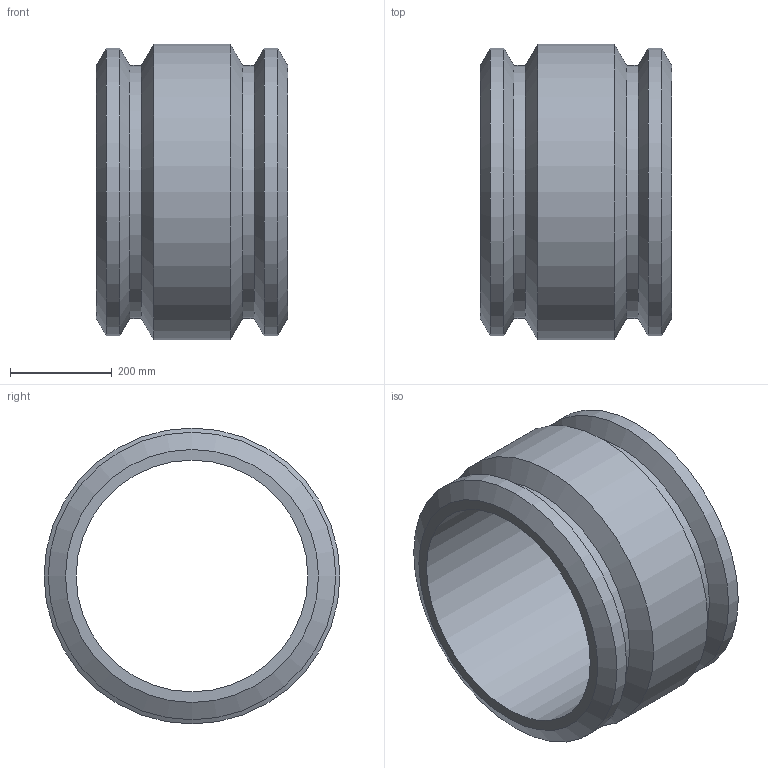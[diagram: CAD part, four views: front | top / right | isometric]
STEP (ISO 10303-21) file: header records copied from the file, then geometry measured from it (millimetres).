
FILE_DESCRIPTION(/* description */ ('PLASSON COUPLER 18''''DIPS'),/* implementation_level */ '2;1');
FILE_NAME(/* name */ 'C:\Dropbox\KIMPROJECTS-Inventor 2019\99-16-3568-Processing Inch\ASTM ElectroFusion 2021\5901D\5901D003180.ipt.stp',/* time_stamp */ '2021-08-30T09:49:00+03:00',/* author */ ('KIM'),/* organization */ (''),/* preprocessor_version */ 'ST-DEVELOPER v17.2',/* originating_system */ 'Autodesk Inventor 2019',/* authorisation */ '');
FILE_SCHEMA (('CONFIG_CONTROL_DESIGN','AUTOMOTIVE_DESIGN { 1 0 10303 214 3 1 1 }'));
Length unit declared in the file: inch
Products named in the file (1): 5901D003180
Bounding box: 375.92 x 581.41 x 581.41 mm (x, y, z)
Volume: 29418853.6 mm3; surface area: 1466359.1 mm2
Topology: 1 solids, 1 shells, 14 faces, 40 edges, 28 vertices
Faces by surface type: cone 6, cylinder 6, plane 2
Full cylindrical faces by diameter (mm): 455.1 x1, 497.108 x2, 564.896 x2, 581.406 x1
Entity records: 531 total; most frequent: DIRECTION 98, CARTESIAN_POINT 83, ORIENTED_EDGE 80, AXIS2_PLACEMENT_3D 43, EDGE_CURVE 40, CIRCLE 28, VERTEX_POINT 28, EDGE_LOOP 16
